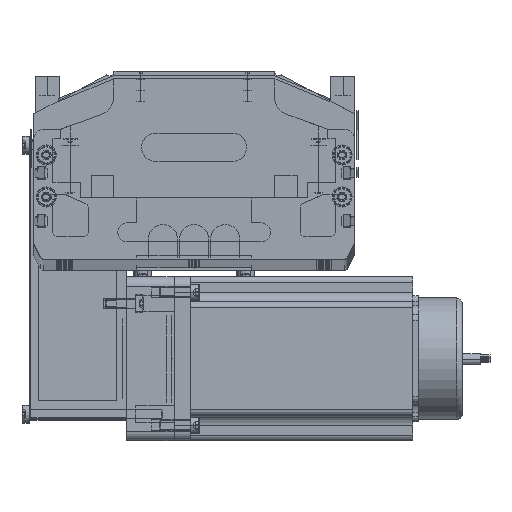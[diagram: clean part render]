
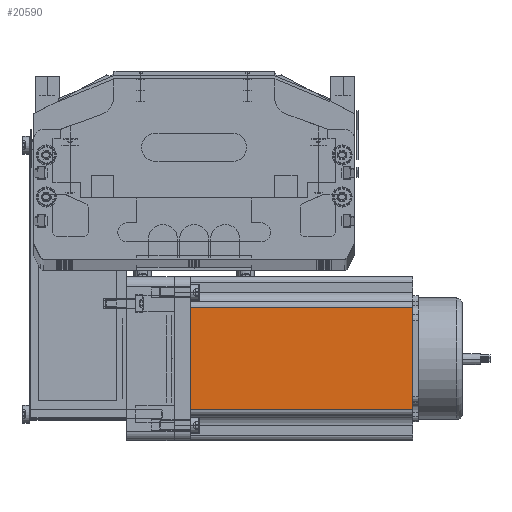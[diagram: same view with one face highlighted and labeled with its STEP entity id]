
A CAD part, top view. The second image highlights one B-rep face of the part: STEP entity #20590.
In plain terms, the highlighted planar face has unit normal (0, 0, 1) as drawn and (0, -1, 0) by its records, which use the part's own axes.
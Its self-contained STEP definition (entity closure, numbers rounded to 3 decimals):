
#20478 = EDGE_LOOP ( 'NONE', ( #20594, #20607, #20605, #20558 ) ) ;
#20485 = VERTEX_POINT ( 'NONE', #79375 ) ;
#20487 = VERTEX_POINT ( 'NONE', #79400 ) ;
#20492 = VERTEX_POINT ( 'NONE', #79371 ) ;
#20558 = ORIENTED_EDGE ( 'NONE', *, *, #20560, .T. ) ;
#20560 = EDGE_CURVE ( 'NONE', #20487, #20492, #79750, .T. ) ;
#20590 = ADVANCED_FACE ( 'NONE', ( #79717 ), #79774, .F. ) ;
#20592 = VERTEX_POINT ( 'NONE', #79718 ) ;
#20594 = ORIENTED_EDGE ( 'NONE', *, *, #20596, .T. ) ;
#20595 = EDGE_CURVE ( 'NONE', #20592, #20485, #79773, .T. ) ;
#20596 = EDGE_CURVE ( 'NONE', #20492, #20592, #79732, .T. ) ;
#20605 = ORIENTED_EDGE ( 'NONE', *, *, #20609, .F. ) ;
#20607 = ORIENTED_EDGE ( 'NONE', *, *, #20595, .T. ) ;
#20609 = EDGE_CURVE ( 'NONE', #20487, #20485, #79756, .T. ) ;
#79371 = CARTESIAN_POINT ( 'NONE',  ( 16.16, 0., 0. ) ) ;
#79375 = CARTESIAN_POINT ( 'NONE',  ( 69.74, 0., 116.5 ) ) ;
#79400 = CARTESIAN_POINT ( 'NONE',  ( 16.16, 0., 116.5 ) ) ;
#79717 = FACE_OUTER_BOUND ( 'NONE', #20478, .T. ) ;
#79718 = CARTESIAN_POINT ( 'NONE',  ( 69.74, 0., 0. ) ) ;
#79732 = LINE ( 'NONE', #79767, #79766 ) ;
#79739 = AXIS2_PLACEMENT_3D ( 'NONE', #79775, #79771, #79770 ) ;
#79747 = DIRECTION ( 'NONE',  ( 0., 0., -1. ) ) ;
#79748 = VECTOR ( 'NONE', #79747, 1000. ) ;
#79749 = CARTESIAN_POINT ( 'NONE',  ( 16.16, 0., 116.5 ) ) ;
#79750 = LINE ( 'NONE', #79749, #79748 ) ;
#79753 = DIRECTION ( 'NONE',  ( 1., 0., 0. ) ) ;
#79754 = VECTOR ( 'NONE', #79753, 1000. ) ;
#79755 = CARTESIAN_POINT ( 'NONE',  ( 0., 0., 116.5 ) ) ;
#79756 = LINE ( 'NONE', #79755, #79754 ) ;
#79765 = DIRECTION ( 'NONE',  ( 1., 0., 0. ) ) ;
#79766 = VECTOR ( 'NONE', #79765, 1000. ) ;
#79767 = CARTESIAN_POINT ( 'NONE',  ( 0., 0., 0. ) ) ;
#79768 = DIRECTION ( 'NONE',  ( 0., 0., 1. ) ) ;
#79769 = VECTOR ( 'NONE', #79768, 1000. ) ;
#79770 = DIRECTION ( 'NONE',  ( 0., 0., 1. ) ) ;
#79771 = DIRECTION ( 'NONE',  ( 0., 1., 0. ) ) ;
#79772 = CARTESIAN_POINT ( 'NONE',  ( 69.74, 0., 116.5 ) ) ;
#79773 = LINE ( 'NONE', #79772, #79769 ) ;
#79774 = PLANE ( 'NONE',  #79739 ) ;
#79775 = CARTESIAN_POINT ( 'NONE',  ( 0., 0., 116.5 ) ) ;
